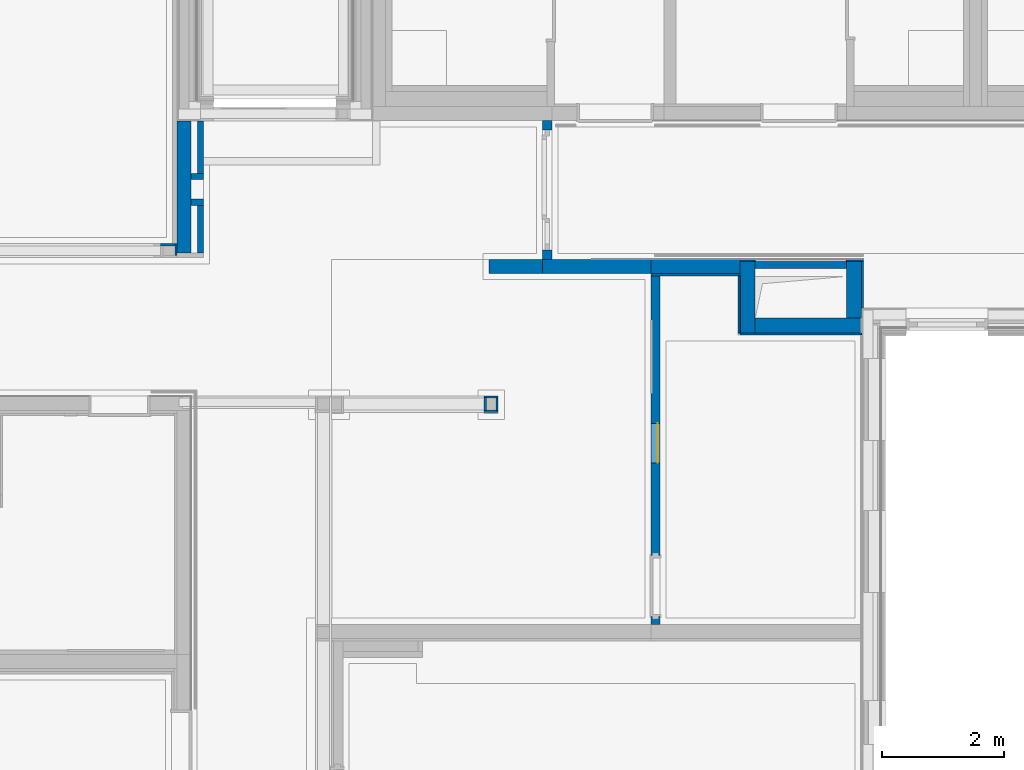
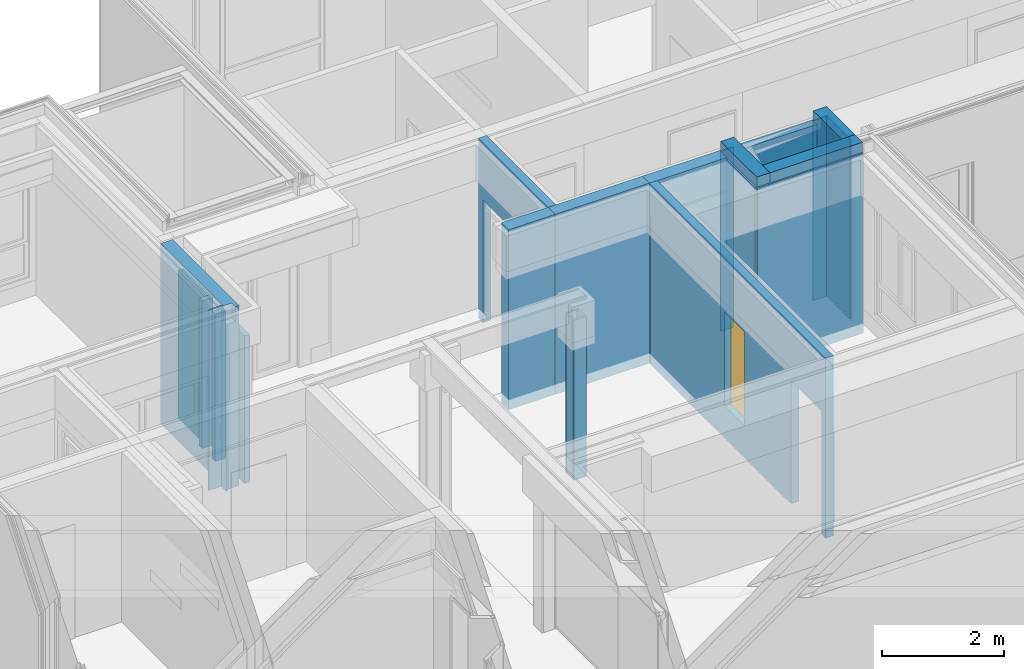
# One storey, part 50 of 207: 26 walls, 1 window, 3 openings.
"""IFC4 building model written with IfcOpenShell, lengths in metres."""

from ifc_helpers import new_model, entity, si_unit, converted_unit, derived_unit, frame, frame_2d, origin, origin_with_axes, place, context, subcontext, project, spatial, polyline, rectangle, outline, extrude, clip, bounded_halfspace, open_shell, surface_model, source, transform, mapped, material, element, fill, save


model = new_model("IFC4")

# Units and contexts
model_context = context("Model", 3, precision=1e-05, world=origin())
body_context = subcontext(model_context, "Body", "Model", "MODEL_VIEW")
ifc_project = project(units=[si_unit("LENGTHUNIT", "METRE"), si_unit("AREAUNIT", "SQUARE_METRE"), si_unit("VOLUMEUNIT", "CUBIC_METRE"), si_unit("MASSUNIT", "GRAM", prefix="KILO"), converted_unit("PLANEANGLEUNIT", "DEGREE", entity("IfcPlaneAngleMeasure", 0.0174532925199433), si_unit("PLANEANGLEUNIT", "RADIAN"), dimensions=[0, 0, 0, 0, 0, 0, 0]), derived_unit("THERMALTRANSMITTANCEUNIT", [(si_unit("POWERUNIT", "WATT"), 1), (si_unit("THERMODYNAMICTEMPERATUREUNIT", "KELVIN"), -1), (si_unit("LENGTHUNIT", "METRE"), -2)]), derived_unit("VOLUMETRICFLOWRATEUNIT", [(si_unit("LENGTHUNIT", "METRE"), 3), (converted_unit("TIMEUNIT", "hour", entity("IfcTimeMeasure", 3600.0), si_unit("TIMEUNIT", "SECOND"), dimensions=[0, 0, 1, 0, 0, 0, 0]), -1), (si_unit("LENGTHUNIT", "METRE"), -1)])], contexts=[model_context])

# Site, building, storey
site_placement = place(None, origin())
site = spatial("IfcSite", under=ifc_project, at=site_placement, Name="Psychiatrie Neubau Wunstorf", CompositionType="ELEMENT")
building_placement = place(site_placement, origin())
building = spatial("IfcBuilding", under=site, at=building_placement, Name="Neubau H2 Stationsgebäude", CompositionType="ELEMENT")
storey_placement = place(building_placement, frame((0.0, 0.0, -0.2)))
storey = spatial("IfcBuildingStorey", under=building, at=storey_placement, Name="H2 Ebene 0", CompositionType="ELEMENT", Elevation=-0.2)

# Wall
ifc_material_1 = material(Name="WI-HW 60")
wall_1_placement = place(storey_placement, frame((68.121, 22.9389999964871, 0.0), z_axis=(0.0, 0.0, 1.0), x_axis=(0.0, 1.0, 0.0)))
element("IfcWall", 1, at=wall_1_placement, inside=storey, material=ifc_material_1, context=body_context, shape_type="Clipping", body=[
    clip(extrude(rectangle(XDim=2.17500366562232, YDim=0.232, at=frame_2d((1.08750183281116, 0.116), x_axis=(1.0, 0.0))), origin_with_axes(), (0.0, 0.0, 1.0), 3.6), bounded_halfspace(frame((0.0604984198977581, 0.149999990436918, 3.3), z_axis=(0.0, 0.0, -1.0), x_axis=(0.999999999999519, -9.80746459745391e-07, 0.0)), True, origin_with_axes(), polyline([(0.0, 0.068000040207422), (0.120996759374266, 0.0679999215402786), (0.12099692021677, 0.232), (0.0, 0.232), (0.0, 0.068000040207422)]))),
])

# Wall, openings, window
ifc_material_2 = material(Name="WI-LB")
wall_2_placement = place(storey_placement, frame((75.684, 22.604, 0.0), z_axis=(0.0, 0.0, 1.0), x_axis=(0.0, -1.0, 0.0)))
wall_2 = element("IfcWall", 2, at=wall_2_placement, inside=storey, material=ifc_material_2, context=body_context, shape_type="Clipping", body=[
    clip(extrude(rectangle(XDim=5.7715, YDim=0.15, at=frame_2d((2.88575, 0.075), x_axis=(1.0, 0.0))), origin_with_axes(), (0.0, 0.0, 1.0), 3.6), bounded_halfspace(frame((0.02, 0.075, 2.95), z_axis=(0.0, 0.0, 1.0), x_axis=(0.0, 1.0, 0.0)), True, origin_with_axes(), polyline([(0.04, 0.0), (0.04, 0.15), (0.0, 0.15), (0.0, 0.0), (0.04, 0.0)]))),
])
opening_1_placement = place(wall_2_placement, frame((4.6365, 0.0, 0.0), z_axis=(0.0, 1.0, 0.0), x_axis=(0.0, 0.0, 1.0)))
element("IfcOpeningElement", 3, at=opening_1_placement, cuts=wall_2, Name="Türöffnung", ObjectType="Opening", context=body_context, shape_type="SweptSolid", body=[
    extrude(outline(polyline([(2.46, 1.01), (2.46, 0.0), (0.0, 0.0), (0.0, 1.01), (2.46, 1.01)])), origin_with_axes(), (0.0, 0.0, 1.0), 0.15),
])
opening_2_placement = place(wall_2_placement, frame((2.46720215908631, 0.0, 0.64), z_axis=(0.0, 1.0, 0.0), x_axis=(0.0, 0.0, 1.0)))
opening_2 = element("IfcOpeningElement", 4, at=opening_2_placement, cuts=wall_2, Name="Fensteröffnung", ObjectType="Opening", context=body_context, shape_type="SweptSolid", body=[
    extrude(outline(polyline([(1.88, 0.649942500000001), (1.88, 0.0), (0.0, 0.0), (0.0, 0.649942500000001), (1.88, 0.649942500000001)])), origin_with_axes(), (0.0, 0.0, 1.0), 0.15),
])
shared_shape = source(origin_with_axes(), body_context, "Body", "SurfaceModel", [
    surface_model("IfcShellBasedSurfaceModel", [(0.0, 0.0349999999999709, 0.0), (0.0, 0.0349999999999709, 1.88), (0.649942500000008, 0.0349999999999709, 1.88), (0.649942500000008, 0.0349999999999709, 0.0)], [open_shell([[[0, 1, 2, 3]]], orient=[[False]])]),
])
window_placement = place(opening_2_placement, frame((0.0, 0.0, 0.08), z_axis=(1.0, 0.0, 0.0), x_axis=(0.0, 1.0, 0.0)))
window = element("IfcWindow", 5, at=window_placement, inside=storey, Name="Fenster", OverallHeight=1.88, OverallWidth=0.64994, PartitioningType="USERDEFINED", PredefinedType="WINDOW", context=body_context, shape_type="MappedRepresentation", body=[
    mapped(shared_shape, transform((0.0, 0.0, 0.0), x_axis=(1.0, 0.0, 0.0), y_axis=(0.0, 1.0, 0.0), z_axis=(0.0, 0.0, 1.0), scale=1.0)),
])
fill(opening_2, window)

# Walls
ifc_material_3 = material(Name="WI-STB")
wall_3_placement = place(storey_placement, frame((77.4, 21.625, 0.0), z_axis=(0.0, 0.0, 1.0), x_axis=(0.0, 1.0, 0.0)))
element("IfcWall", 6, at=wall_3_placement, inside=storey, material=ifc_material_3, context=body_context, shape_type="SweptSolid", body=[
    extrude(rectangle(XDim=1.181, YDim=0.25, at=frame_2d((0.5905, 0.125), x_axis=(1.0, 0.0))), origin_with_axes(), (0.0, 0.0, 1.0), 3.8),
])
ifc_material_4 = material(Name="WI-HW 60")
wall_4_placement = place(storey_placement, frame((67.853, 23.095997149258, 0.0), z_axis=(0.0, 0.0, 1.0), x_axis=(-1.0, 0.0, 0.0)))
element("IfcWall", 7, at=wall_4_placement, inside=storey, material=ifc_material_4, context=body_context, shape_type="SweptSolid", body=[
    extrude(rectangle(XDim=0.236, YDim=0.036, at=frame_2d((0.118, 0.018), x_axis=(1.0, 0.0))), origin_with_axes(), (0.0, 0.0, 1.0), 3.6),
])
ifc_material_5 = material(Name="WI-HW 60")
wall_5_placement = place(storey_placement, frame((67.889, 22.899997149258, 0.0), z_axis=(0.0, 0.0, 1.0), x_axis=(0.0, 1.0, 0.0)))
element("IfcWall", 8, at=wall_5_placement, inside=storey, material=ifc_material_5, context=body_context, shape_type="Clipping", body=[
    clip(extrude(rectangle(XDim=0.196002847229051, YDim=0.036, at=frame_2d((0.0980014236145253, 0.018), x_axis=(1.0, 0.0))), origin_with_axes(), (0.0, 0.0, 1.0), 3.6), bounded_halfspace(frame((0.0799998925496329, 0.018, 3.3), z_axis=(0.0, 0.0, -1.0), x_axis=(0.0, -1.0, 0.0)), True, origin_with_axes(), polyline([(0.0, 0.036), (0.0, 0.0), (0.159999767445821, 0.0), (0.159999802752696, 0.036), (0.0, 0.036)]))),
])
ifc_material_6 = material(Name="WI-HW 60")
wall_6_placement = place(storey_placement, frame((73.9, 22.604, 0.0)))
element("IfcWall", 9, at=wall_6_placement, inside=storey, material=ifc_material_6, context=body_context, shape_type="SweptSolid", body=[
    extrude(rectangle(XDim=1.78399999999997, YDim=0.232, at=frame_2d((0.891999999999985, 0.116), x_axis=(1.0, 0.0))), origin_with_axes(), (0.0, 0.0, 1.0), 3.6),
])
ifc_material_7 = material(Name="WI-HW 60")
wall_7_placement = place(storey_placement, frame((73.022, 22.604, 0.0)))
element("IfcWall", 10, at=wall_7_placement, inside=storey, material=ifc_material_7, context=body_context, shape_type="SweptSolid", body=[
    extrude(rectangle(XDim=0.878, YDim=0.232, at=frame_2d((0.439, 0.116), x_axis=(1.0, 0.0))), origin_with_axes(), (0.0, 0.0, 1.0), 3.6),
])
ifc_material_8 = material(Name="WI-LB")
wall_8_placement = place(storey_placement, frame((77.15, 21.625, 0.0), z_axis=(0.0, 0.0, 1.0), x_axis=(0.0, 1.0, 0.0)))
element("IfcWall", 11, at=wall_8_placement, inside=storey, material=ifc_material_8, context=body_context, shape_type="SweptSolid", body=[
    extrude(rectangle(XDim=0.939, YDim=0.0299996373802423, at=frame_2d((0.4695, 0.0149998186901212), x_axis=(1.0, 0.0))), origin_with_axes(), (0.0, 0.0, 1.0), 3.6),
])
ifc_material_9 = material(Name="WI-LB")
wall_9_placement = place(storey_placement, frame((79.15, 22.806, 0.0), z_axis=(0.0, 0.0, 1.0), x_axis=(0.0, -1.0, 0.0)))
element("IfcWall", 12, at=wall_9_placement, inside=storey, material=ifc_material_9, context=body_context, shape_type="SweptSolid", body=[
    extrude(rectangle(XDim=0.77, YDim=0.0299996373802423, at=frame_2d((0.385, 0.0149998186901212), x_axis=(1.0, 0.0))), origin_with_axes(), (0.0, 0.0, 1.0), 3.6),
])
ifc_material_10 = material(Name="WI-LB")
wall_10_placement = place(storey_placement, frame((77.15, 22.806, 0.0)))
element("IfcWall", 13, at=wall_10_placement, inside=storey, material=ifc_material_10, context=body_context, shape_type="SweptSolid", body=[
    extrude(rectangle(XDim=0.25, YDim=0.0299996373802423, at=frame_2d((0.125, 0.0149998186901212), x_axis=(1.0, 0.0))), origin_with_axes(), (0.0, 0.0, 1.0), 3.6),
])

# Wall, opening
ifc_material_11 = material(Name="WI-LB")
wall_11_placement = place(storey_placement, frame((74.055, 22.836, 0.0), z_axis=(0.0, 0.0, 1.0), x_axis=(0.0, 1.0, 0.0)))
wall_11 = element("IfcWall", 14, at=wall_11_placement, inside=storey, material=ifc_material_11, context=body_context, shape_type="SweptSolid", body=[
    extrude(rectangle(XDim=2.2815, YDim=0.155, at=frame_2d((1.14075, 0.0775), x_axis=(1.0, 0.0))), origin_with_axes(), (0.0, 0.0, 1.0), 3.6),
])
opening_3_placement = place(wall_11_placement, frame((0.155000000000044, 0.0, 0.0), z_axis=(0.0, 1.0, 0.0), x_axis=(0.0, 0.0, 1.0)))
element("IfcOpeningElement", 15, at=opening_3_placement, cuts=wall_11, Name="Türöffnung", ObjectType="Opening", context=body_context, shape_type="SweptSolid", body=[
    extrude(outline(polyline([(2.46, 1.9715), (2.46, 0.0), (0.0, 0.0), (0.0, 1.9715), (2.46, 1.9715)])), origin_with_axes(), (0.0, 0.0, 1.0), 0.155),
])

# Walls
ifc_material_12 = material(Name="WI-LB")
wall_12_placement = place(storey_placement, frame((68.321, 22.9389999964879, 0.0), z_axis=(0.0, 0.0, 1.0), x_axis=(0.0, 1.0, 0.0)))
element("IfcWall", 16, at=wall_12_placement, inside=storey, material=ifc_material_12, context=body_context, shape_type="SweptSolid", body=[
    extrude(rectangle(XDim=0.787499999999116, YDim=0.1, at=frame_2d((0.393749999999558, 0.05), x_axis=(1.0, 0.0))), origin_with_axes(), (0.0, 0.0, 1.0), 2.95),
])
ifc_material_13 = material(Name="WI-LB")
wall_13_placement = place(storey_placement, frame((68.321, 23.8264999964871, 0.0), z_axis=(0.0, 0.0, 1.0), x_axis=(-1.0, 0.0, 0.0)))
element("IfcWall", 17, at=wall_13_placement, inside=storey, material=ifc_material_13, context=body_context, shape_type="SweptSolid", body=[
    extrude(rectangle(XDim=0.2, YDim=0.1, at=frame_2d((0.1, 0.05), x_axis=(1.0, 0.0))), origin_with_axes(), (0.0, 0.0, 1.0), 2.95),
])
ifc_material_14 = material(Name="WI-LB")
wall_14_placement = place(storey_placement, frame((68.321, 24.2515036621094, 0.0), z_axis=(0.0, 0.0, 1.0), x_axis=(0.0, 1.0, 0.0)))
element("IfcWall", 18, at=wall_14_placement, inside=storey, material=ifc_material_14, context=body_context, shape_type="SweptSolid", body=[
    extrude(rectangle(XDim=0.8625, YDim=0.1, at=frame_2d((0.43125, 0.05), x_axis=(1.0, 0.0))), origin_with_axes(), (0.0, 0.0, 1.0), 2.95),
])
ifc_material_15 = material(Name="WI-LB")
wall_15_placement = place(storey_placement, frame((68.121, 24.1515036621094, 0.0)))
element("IfcWall", 19, at=wall_15_placement, inside=storey, material=ifc_material_15, context=body_context, shape_type="SweptSolid", body=[
    extrude(rectangle(XDim=0.2, YDim=0.1, at=frame_2d((0.1, 0.05), x_axis=(1.0, 0.0))), origin_with_axes(), (0.0, 0.0, 1.0), 2.95),
])
ifc_material_16 = material(Name="BS Beplankung")
wall_16_placement = place(storey_placement, frame((72.9399970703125, 20.560998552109, 0.0), z_axis=(0.0, 0.0, 1.0), x_axis=(0.0, -1.0, 0.0)))
element("IfcWall", 20, at=wall_16_placement, inside=storey, material=ifc_material_16, context=body_context, shape_type="SweptSolid", body=[
    extrude(rectangle(XDim=0.21, YDim=0.036, at=frame_2d((0.105, 0.018), x_axis=(1.0, 0.0))), origin_with_axes(), (0.0, 0.0, 1.0), 3.2),
])
ifc_material_17 = material(Name="BS Beplankung")
wall_17_placement = place(storey_placement, frame((72.9399970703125, 20.320001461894, 0.0)))
element("IfcWall", 21, at=wall_17_placement, inside=storey, material=ifc_material_17, context=body_context, shape_type="SweptSolid", body=[
    extrude(outline(polyline([(0.0, 0.0), (0.232, 0.0), (0.232, 0.0309970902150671), (0.196, 0.0309970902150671), (0.196, 0.036), (0.036, 0.036), (0.036, 0.0309970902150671), (0.0, 0.0309970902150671), (0.0, 0.0)])), origin_with_axes(), (0.0, 0.0, 1.0), 3.2),
])
ifc_material_18 = material(Name="BS Beplankung")
wall_18_placement = place(storey_placement, frame((73.1719970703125, 20.350998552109, 0.0), z_axis=(0.0, 0.0, 1.0), x_axis=(0.0, 1.0, 0.0)))
element("IfcWall", 22, at=wall_18_placement, inside=storey, material=ifc_material_18, context=body_context, shape_type="SweptSolid", body=[
    extrude(rectangle(XDim=0.205002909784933, YDim=0.036, at=frame_2d((0.102501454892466, 0.018), x_axis=(1.0, 0.0))), origin_with_axes(), (0.0, 0.0, 1.0), 3.2),
])
ifc_material_19 = material(Name="BS Beplankung")
wall_19_placement = place(storey_placement, frame((73.1719970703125, 20.592001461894, 0.0), z_axis=(0.0, 0.0, 1.0), x_axis=(-1.0, 0.0, 0.0)))
element("IfcWall", 23, at=wall_19_placement, inside=storey, material=ifc_material_19, context=body_context, shape_type="SweptSolid", body=[
    extrude(outline(polyline([(-0.232, -0.036), (0.0, -0.036), (0.0, -0.00499709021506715), (-0.036, -0.00499709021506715), (-0.036, 0.0), (-0.232, 0.0), (-0.232, -0.036)])), frame((0.232, 0.036, 0.0), z_axis=(0.0, 0.0, 1.0), x_axis=(1.0, 0.0, 0.0)), (0.0, 0.0, 1.0), 3.2),
])
ifc_material_20 = material(Name="WI-LB")
wall_20_placement = place(storey_placement, frame((77.4, 22.686, 0.0)))
element("IfcWall", 24, at=wall_20_placement, inside=storey, material=ifc_material_20, context=body_context, shape_type="SweptSolid", body=[
    extrude(rectangle(XDim=1.5, YDim=0.15, at=frame_2d((0.75, 0.075), x_axis=(1.0, 0.0))), origin_with_axes(), (0.0, 0.0, 1.0), 3.6),
])
ifc_material_21 = material(Name="WI-LB")
wall_21_placement = place(storey_placement, frame((75.684, 22.564, 0.0)))
element("IfcWall", 25, at=wall_21_placement, inside=storey, material=ifc_material_21, context=body_context, shape_type="SweptSolid", body=[
    extrude(rectangle(XDim=1.46600000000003, YDim=0.04, at=frame_2d((0.733000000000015, 0.02), x_axis=(1.0, 0.0))), origin_with_axes(), (0.0, 0.0, 1.0), 2.95),
])
ifc_material_22 = material(Name="WI-HW 60")
wall_22_placement = place(storey_placement, frame((75.684, 22.604, 0.0)))
element("IfcWall", 26, at=wall_22_placement, inside=storey, material=ifc_material_22, context=body_context, shape_type="SweptSolid", body=[
    extrude(rectangle(XDim=1.46600000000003, YDim=0.232, at=frame_2d((0.733000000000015, 0.116), x_axis=(1.0, 0.0))), origin_with_axes(), (0.0, 0.0, 1.0), 3.6),
])
ifc_material_23 = material(Name="WI-LB")
wall_23_placement = place(storey_placement, frame((78.9, 22.806, 0.0)))
element("IfcWall", 27, at=wall_23_placement, inside=storey, material=ifc_material_23, context=body_context, shape_type="SweptSolid", body=[
    extrude(rectangle(XDim=0.279999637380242, YDim=0.0299996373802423, at=frame_2d((0.139999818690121, 0.0149998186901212), x_axis=(1.0, 0.0))), origin_with_axes(), (0.0, 0.0, 1.0), 3.6),
])
ifc_material_24 = material(Name="WI-STB")
wall_24_placement = place(storey_placement, frame((79.15, 21.875, 0.0), z_axis=(0.0, 0.0, 1.0), x_axis=(0.0, 1.0, 0.0)))
element("IfcWall", 28, at=wall_24_placement, inside=storey, material=ifc_material_24, context=body_context, shape_type="SweptSolid", body=[
    extrude(rectangle(XDim=0.931, YDim=0.25, at=frame_2d((0.4655, 0.125), x_axis=(1.0, 0.0))), origin_with_axes(), (0.0, 0.0, 1.0), 3.8),
])
ifc_material_25 = material(Name="WI-LB")
wall_25_placement = place(storey_placement, frame((77.15, 21.5950003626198, 0.0)))
element("IfcWall", 29, at=wall_25_placement, inside=storey, material=ifc_material_25, context=body_context, shape_type="SweptSolid", body=[
    extrude(rectangle(XDim=2.0, YDim=0.0299996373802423, at=frame_2d((1.0, 0.0149998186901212), x_axis=(1.0, 0.0))), origin_with_axes(), (0.0, 0.0, 1.0), 3.6),
])
ifc_material_26 = material(Name="WI-STB")
wall_26_placement = place(storey_placement, frame((77.4, 21.625, 0.0)))
element("IfcWall", 30, at=wall_26_placement, inside=storey, material=ifc_material_26, context=body_context, shape_type="SweptSolid", body=[
    extrude(rectangle(XDim=1.75, YDim=0.25, at=frame_2d((0.875, 0.125), x_axis=(1.0, 0.0))), origin_with_axes(), (0.0, 0.0, 1.0), 3.8),
])

save(model, "model.ifc")
